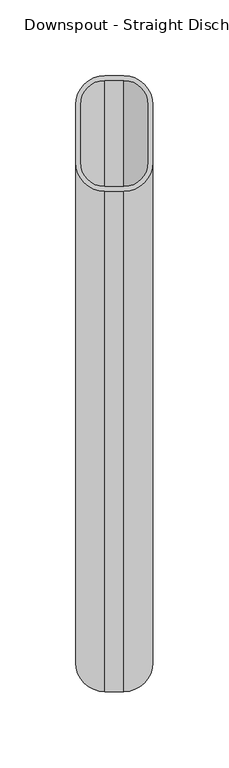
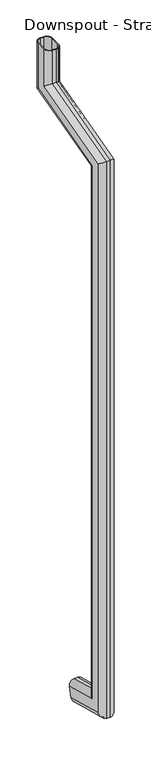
"""IFC4 building model written with IfcOpenShell, lengths in millimetres: proxy geometry."""

from ifc_helpers import new_model, si_unit, frame, origin, place, context, project, spatial, polyline, circle_curve, ellipse_curve, source, transform, mapped, element, save
from ifc_brep_helpers import plane_surface, cylinder_surface, revolved_surface, advanced_brep


def proxy_44de5c8c(model_context):
    return source(origin(), model_context, "Body", "AdvancedBrep", [
        advanced_brep(
        [(25.4, 350.6694972, 133.999113), (6.35, 345.7389944, 115.598226), (-6.35, 345.7389944, 115.598226), (-25.4, 350.6694972, 133.999113), (-25.4, 360.5305028, 170.800887), (-6.35, 365.4610056, 189.201774), (6.35, 365.4610056, 189.201774), (25.4, 360.5305028, 170.800887), (22.225, 350.6694972, 133.999113), (22.225, 360.5305028, 170.800887), (6.35, 364.6392552, 186.1349595), (-6.35, 364.6392552, 186.1349595), (-22.225, 360.5305028, 170.800887), (-22.225, 350.6694972, 133.999113), (-6.35, 346.5607448, 118.6650405), (6.35, 346.5607448, 118.6650405), (6.35, 165.1, 164.0002987), (25.4, 184.15, 178.6178778), (25.4, 184.15, 2212.1407558), (6.35, 165.1, 2226.7583349), (-6.35, 165.1, 164.0002987), (-6.35, 165.1, 2226.7583349), (-25.4, 184.15, 178.6178778), (-25.4, 184.15, 2212.1407558), (-6.35, 241.3, 222.4706152), (-25.4, 222.25, 207.853036), (-25.4, 222.25, 2182.9055975), (-6.35, 241.3, 2168.2880184), (6.35, 241.3, 222.4706152), (6.35, 241.3, 2168.2880184), (25.4, 222.25, 207.853036), (25.4, 222.25, 2182.9055975), (6.35, 238.125, 220.034352), (22.225, 222.25, 207.853036), (22.225, 222.25, 2182.9055975), (6.35, 238.125, 2170.7242816), (-6.35, 238.125, 220.034352), (-6.35, 238.125, 2170.7242816), (-22.225, 222.25, 207.853036), (-22.225, 222.25, 2182.9055975), (-6.35, 168.275, 166.4365619), (-22.225, 184.15, 178.6178778), (-22.225, 184.15, 2212.1407558), (-6.35, 168.275, 2224.3220717), (6.35, 168.275, 166.4365619), (6.35, 168.275, 2224.3220717), (22.225, 184.15, 178.6178778), (22.225, 184.15, 2212.1407558), (25.4, 514.35, 2300.6175791), (6.35, 495.3, 2315.2351582), (-6.35, 495.3, 2315.2351582), (-25.4, 514.35, 2300.6175791), (-25.4, 552.45, 2271.3824209), (-6.35, 571.5, 2256.7648418), (6.35, 571.5, 2256.7648418), (25.4, 552.45, 2271.3824209), (22.225, 552.45, 2271.3824209), (6.35, 568.325, 2259.2011049), (-6.35, 568.325, 2259.2011049), (-22.225, 552.45, 2271.3824209), (-22.225, 514.35, 2300.6175791), (-6.35, 498.475, 2312.7988951), (6.35, 498.475, 2312.7988951), (22.225, 514.35, 2300.6175791), (25.4, 514.35, 2438.4), (25.4, 552.45, 2438.4), (6.35, 571.5, 2438.4), (-6.35, 571.5, 2438.4), (-25.4, 552.45, 2438.4), (-25.4, 514.35, 2438.4), (-6.35, 495.3, 2438.4), (6.35, 495.3, 2438.4), (22.225, 514.35, 2438.4), (6.35, 498.475, 2438.4), (-6.35, 498.475, 2438.4), (-22.225, 514.35, 2438.4), (-22.225, 552.45, 2438.4), (-6.35, 568.325, 2438.4), (6.35, 568.325, 2438.4), (22.225, 552.45, 2438.4)],
        [
            (0, 1, circle_curve(frame((6.35, 350.6694972, 133.999113), z_axis=(0.0, 0.9659258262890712, -0.25881904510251), x_axis=(0.0, -0.25881904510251, -0.9659258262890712)), 19.05)),
            (1, 2),
            (2, 3, circle_curve(frame((-6.35, 350.6694972, 133.999113), z_axis=(0.0, 0.9659258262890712, -0.25881904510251), x_axis=(0.0, -0.25881904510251, -0.9659258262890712)), 19.05)),
            (3, 4),
            (4, 5, circle_curve(frame((-6.35, 360.5305028, 170.800887), z_axis=(0.0, 0.9659258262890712, -0.25881904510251), x_axis=(0.0, -0.25881904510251, -0.9659258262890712)), 19.05)),
            (5, 6),
            (6, 7, circle_curve(frame((6.35, 360.5305028, 170.800887), z_axis=(0.0, 0.9659258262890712, -0.25881904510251), x_axis=(0.0, -0.25881904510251, -0.9659258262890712)), 19.05)),
            (7, 0),
            (8, 9),
            (9, 10, circle_curve(frame((6.35, 360.5305028, 170.800887), z_axis=(0.0, -0.9659258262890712, 0.25881904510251), x_axis=(0.0, -0.25881904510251, -0.9659258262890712)), 15.875)),
            (10, 11),
            (11, 12, circle_curve(frame((-6.35, 360.5305028, 170.800887), z_axis=(0.0, -0.9659258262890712, 0.25881904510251), x_axis=(0.0, -0.25881904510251, -0.9659258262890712)), 15.875)),
            (12, 13),
            (13, 14, circle_curve(frame((-6.35, 350.6694972, 133.999113), z_axis=(0.0, -0.9659258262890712, 0.25881904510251), x_axis=(0.0, -0.25881904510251, -0.9659258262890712)), 15.875)),
            (14, 15),
            (15, 8, circle_curve(frame((6.35, 350.6694972, 133.999113), z_axis=(0.0, -0.9659258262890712, 0.25881904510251), x_axis=(0.0, -0.25881904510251, -0.9659258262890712)), 15.875)),
            (16, 17, ellipse_curve(frame((6.35, 184.15, 178.6178778), z_axis=(0.0, -0.608761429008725, 0.7933533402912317), x_axis=(0.0, -0.7933533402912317, -0.6087614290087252)), 24.0119995, 19.05)),
            (17, 18),
            (18, 19, ellipse_curve(frame((6.35, 184.15, 2212.1407558), z_axis=(0.0, -0.6087614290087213, -0.7933533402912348), x_axis=(0.0, 0.7933533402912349, -0.608761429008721)), 24.0119995, 19.05)),
            (19, 16),
            (20, 16),
            (19, 21),
            (21, 20),
            (22, 20, ellipse_curve(frame((-6.35, 184.15, 178.6178778), z_axis=(0.0, -0.608761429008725, 0.7933533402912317), x_axis=(0.0, -0.7933533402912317, -0.6087614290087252)), 24.0119995, 19.05)),
            (21, 23, ellipse_curve(frame((-6.35, 184.15, 2212.1407558), z_axis=(0.0, -0.6087614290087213, -0.7933533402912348), x_axis=(0.0, 0.7933533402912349, -0.608761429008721)), 24.0119995, 19.05)),
            (23, 22),
            (24, 25, ellipse_curve(frame((-6.35, 222.25, 207.853036), z_axis=(0.0, -0.608761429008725, 0.7933533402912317), x_axis=(0.0, -0.7933533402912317, -0.6087614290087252)), 24.0119995, 19.05)),
            (25, 26),
            (26, 27, ellipse_curve(frame((-6.35, 222.25, 2182.9055975), z_axis=(0.0, -0.6087614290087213, -0.7933533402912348), x_axis=(0.0, 0.7933533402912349, -0.608761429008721)), 24.0119995, 19.05)),
            (27, 24),
            (28, 24),
            (27, 29),
            (29, 28),
            (30, 28, ellipse_curve(frame((6.35, 222.25, 207.853036), z_axis=(0.0, -0.608761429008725, 0.7933533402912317), x_axis=(0.0, -0.7933533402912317, -0.6087614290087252)), 24.0119995, 19.05)),
            (29, 31, ellipse_curve(frame((6.35, 222.25, 2182.9055975), z_axis=(0.0, -0.6087614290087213, -0.7933533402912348), x_axis=(0.0, 0.7933533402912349, -0.608761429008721)), 24.0119995, 19.05)),
            (31, 30),
            (32, 33, ellipse_curve(frame((6.35, 222.25, 207.853036), z_axis=(0.0, 0.608761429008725, -0.7933533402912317), x_axis=(0.0, 0.7933533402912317, 0.6087614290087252)), 20.0099996, 15.875)),
            (33, 34),
            (34, 35, ellipse_curve(frame((6.35, 222.25, 2182.9055975), z_axis=(0.0, 0.6087614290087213, 0.7933533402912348), x_axis=(0.0, -0.7933533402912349, 0.608761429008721)), 20.0099996, 15.875)),
            (35, 32),
            (36, 32),
            (35, 37),
            (37, 36),
            (38, 36, ellipse_curve(frame((-6.35, 222.25, 207.853036), z_axis=(0.0, 0.608761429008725, -0.7933533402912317), x_axis=(0.0, 0.7933533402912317, 0.6087614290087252)), 20.0099996, 15.875)),
            (37, 39, ellipse_curve(frame((-6.35, 222.25, 2182.9055975), z_axis=(0.0, 0.6087614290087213, 0.7933533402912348), x_axis=(0.0, -0.7933533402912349, 0.608761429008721)), 20.0099996, 15.875)),
            (39, 38),
            (40, 41, ellipse_curve(frame((-6.35, 184.15, 178.6178778), z_axis=(0.0, 0.608761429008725, -0.7933533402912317), x_axis=(0.0, 0.7933533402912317, 0.6087614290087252)), 20.0099996, 15.875)),
            (41, 42),
            (42, 43, ellipse_curve(frame((-6.35, 184.15, 2212.1407558), z_axis=(0.0, 0.6087614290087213, 0.7933533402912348), x_axis=(0.0, -0.7933533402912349, 0.608761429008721)), 20.0099996, 15.875)),
            (43, 40),
            (44, 40),
            (43, 45),
            (45, 44),
            (46, 44, ellipse_curve(frame((6.35, 184.15, 178.6178778), z_axis=(0.0, 0.608761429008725, -0.7933533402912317), x_axis=(0.0, 0.7933533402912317, 0.6087614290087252)), 20.0099996, 15.875)),
            (45, 47, ellipse_curve(frame((6.35, 184.15, 2212.1407558), z_axis=(0.0, 0.6087614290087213, 0.7933533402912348), x_axis=(0.0, -0.7933533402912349, 0.608761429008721)), 20.0099996, 15.875)),
            (47, 46),
            (18, 48),
            (48, 49, ellipse_curve(frame((6.35, 514.35, 2300.6175791), z_axis=(0.0, -0.6087614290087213, -0.7933533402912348), x_axis=(0.0, -0.7933533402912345, 0.6087614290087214)), 24.0119995, 19.05)),
            (49, 19),
            (49, 50),
            (50, 21),
            (50, 51, ellipse_curve(frame((-6.35, 514.35, 2300.6175791), z_axis=(0.0, -0.6087614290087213, -0.7933533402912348), x_axis=(0.0, -0.7933533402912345, 0.6087614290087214)), 24.0119995, 19.05)),
            (51, 23),
            (26, 52),
            (52, 53, ellipse_curve(frame((-6.35, 552.45, 2271.3824209), z_axis=(0.0, -0.6087614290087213, -0.7933533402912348), x_axis=(0.0, -0.7933533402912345, 0.6087614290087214)), 24.0119995, 19.05)),
            (53, 27),
            (53, 54),
            (54, 29),
            (54, 55, ellipse_curve(frame((6.35, 552.45, 2271.3824209), z_axis=(0.0, -0.6087614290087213, -0.7933533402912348), x_axis=(0.0, -0.7933533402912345, 0.6087614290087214)), 24.0119995, 19.05)),
            (55, 31),
            (34, 56),
            (56, 57, ellipse_curve(frame((6.35, 552.45, 2271.3824209), z_axis=(0.0, 0.6087614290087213, 0.7933533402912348), x_axis=(0.0, 0.7933533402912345, -0.6087614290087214)), 20.0099996, 15.875)),
            (57, 35),
            (57, 58),
            (58, 37),
            (58, 59, ellipse_curve(frame((-6.35, 552.45, 2271.3824209), z_axis=(0.0, 0.6087614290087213, 0.7933533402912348), x_axis=(0.0, 0.7933533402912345, -0.6087614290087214)), 20.0099996, 15.875)),
            (59, 39),
            (42, 60),
            (60, 61, ellipse_curve(frame((-6.35, 514.35, 2300.6175791), z_axis=(0.0, 0.6087614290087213, 0.7933533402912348), x_axis=(0.0, 0.7933533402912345, -0.6087614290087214)), 20.0099996, 15.875)),
            (61, 43),
            (61, 62),
            (62, 45),
            (62, 63, ellipse_curve(frame((6.35, 514.35, 2300.6175791), z_axis=(0.0, 0.6087614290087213, 0.7933533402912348), x_axis=(0.0, 0.7933533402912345, -0.6087614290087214)), 20.0099996, 15.875)),
            (63, 47),
            (64, 65),
            (65, 66, circle_curve(frame((6.35, 552.45, 2438.4), z_axis=(0.0, 0.0, 1.0), x_axis=(0.0, -1.0, 0.0)), 19.05)),
            (66, 67),
            (67, 68, circle_curve(frame((-6.35, 552.45, 2438.4), z_axis=(0.0, 0.0, 1.0), x_axis=(0.0, -1.0, 0.0)), 19.05)),
            (68, 69),
            (69, 70, circle_curve(frame((-6.35, 514.35, 2438.4), z_axis=(0.0, 0.0, 1.0), x_axis=(0.0, -1.0, 0.0)), 19.05)),
            (70, 71),
            (71, 64, circle_curve(frame((6.35, 514.35, 2438.4), z_axis=(0.0, 0.0, 1.0), x_axis=(0.0, -1.0, 0.0)), 19.05)),
            (72, 73, circle_curve(frame((6.35, 514.35, 2438.4), z_axis=(0.0, 0.0, -1.0), x_axis=(0.0, -1.0, 0.0)), 15.875)),
            (73, 74),
            (74, 75, circle_curve(frame((-6.35, 514.35, 2438.4), z_axis=(0.0, 0.0, -1.0), x_axis=(0.0, -1.0, 0.0)), 15.875)),
            (75, 76),
            (76, 77, circle_curve(frame((-6.35, 552.45, 2438.4), z_axis=(0.0, 0.0, -1.0), x_axis=(0.0, -1.0, 0.0)), 15.875)),
            (77, 78),
            (78, 79, circle_curve(frame((6.35, 552.45, 2438.4), z_axis=(0.0, 0.0, -1.0), x_axis=(0.0, -1.0, 0.0)), 15.875)),
            (79, 72),
            (48, 64),
            (71, 49),
            (70, 50),
            (69, 51),
            (52, 68),
            (67, 53),
            (66, 54),
            (65, 55),
            (56, 79),
            (78, 57),
            (77, 58),
            (76, 59),
            (60, 75),
            (74, 61),
            (73, 62),
            (72, 63),
            (0, 17),
            (16, 1),
            (20, 2),
            (22, 3),
            (25, 4),
            (24, 5),
            (28, 6),
            (30, 7),
            (8, 46),
            (33, 9),
            (32, 10),
            (36, 11),
            (38, 12),
            (41, 13),
            (40, 14),
            (44, 15),
        ],
        [
            plane_surface(frame((0.0, 355.6, 152.4), z_axis=(0.0, 0.9659258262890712, -0.25881904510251), x_axis=(1.0, 0.0, 0.0))),
            cylinder_surface(frame((6.35, 184.15, 193.2354569), z_axis=(0.0, 0.0, -1.0), x_axis=(0.0, -1.0, 0.0)), 19.05),
            plane_surface(frame((6.35, 165.1, 164.0002987), z_axis=(0.0, -1.0, 0.0), x_axis=(0.0, 0.0, 1.0))),
            cylinder_surface(frame((-6.35, 184.15, 193.2354569), z_axis=(0.0, 0.0, -1.0), x_axis=(0.0, -1.0, 0.0)), 19.05),
            cylinder_surface(frame((-6.35, 222.25, 193.2354569), z_axis=(0.0, 0.0, -1.0), x_axis=(0.0, -1.0, 0.0)), 19.05),
            plane_surface(frame((-6.35, 241.3, 222.4706152), z_axis=(0.0, 1.0, 0.0), x_axis=(0.0, 0.0, 1.0))),
            cylinder_surface(frame((6.35, 222.25, 193.2354569), z_axis=(0.0, 0.0, -1.0), x_axis=(0.0, -1.0, 0.0)), 19.05),
            revolved_surface(polyline([(6.35, 206.375, 2195.0869134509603), (6.35, 206.375, 195.67172004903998)]), (6.35, 222.25, 193.2354569), (0.0, 0.0, 1.0)),
            plane_surface(frame((6.35, 238.125, 220.034352), z_axis=(0.0, -1.0, 0.0), x_axis=(0.0, 0.0, 1.0))),
            revolved_surface(polyline([(-6.35, 206.375, 2195.0869134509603), (-6.35, 206.375, 195.67172004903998)]), (-6.35, 222.25, 193.2354569), (0.0, 0.0, 1.0)),
            revolved_surface(polyline([(-6.35, 168.275, 2224.3220717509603), (-6.35, 168.275, 166.43656184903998)]), (-6.35, 184.15, 193.2354569), (0.0, 0.0, 1.0)),
            plane_surface(frame((-6.35, 168.275, 166.4365619), z_axis=(0.0, 1.0, 0.0), x_axis=(0.0, 0.0, 1.0))),
            revolved_surface(polyline([(6.35, 168.275, 2224.3220717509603), (6.35, 168.275, 166.43656184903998)]), (6.35, 184.15, 193.2354569), (0.0, 0.0, 1.0)),
            cylinder_surface(frame((6.35, 198.2694972, 2215.9240637), z_axis=(0.0, -0.9659258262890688, -0.2588190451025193), x_axis=(0.0, -0.2588190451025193, 0.9659258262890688)), 19.05),
            plane_surface(frame((6.35, 165.1, 2226.7583349), z_axis=(0.0, -0.2588190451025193, 0.9659258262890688), x_axis=(0.0, 0.9659258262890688, 0.2588190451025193))),
            cylinder_surface(frame((-6.35, 198.2694972, 2215.9240637), z_axis=(0.0, -0.9659258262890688, -0.2588190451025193), x_axis=(0.0, -0.2588190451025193, 0.9659258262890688)), 19.05),
            cylinder_surface(frame((-6.35, 208.1305028, 2179.1222897), z_axis=(0.0, -0.9659258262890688, -0.2588190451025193), x_axis=(0.0, -0.2588190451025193, 0.9659258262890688)), 19.05),
            plane_surface(frame((-6.35, 241.3, 2168.2880184), z_axis=(0.0, 0.25881904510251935, -0.9659258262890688), x_axis=(0.0, 0.9659258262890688, 0.25881904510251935))),
            cylinder_surface(frame((6.35, 208.1305028, 2179.1222897), z_axis=(0.0, -0.9659258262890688, -0.2588190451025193), x_axis=(0.0, -0.2588190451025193, 0.9659258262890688)), 19.05),
            revolved_surface(polyline([(6.35, 560.1074953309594, 2289.8692499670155), (6.35, 206.37499996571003, 2195.0869134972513)]), (6.35, 208.1305028, 2179.1222897), (0.0, 0.9659258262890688, 0.2588190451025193)),
            plane_surface(frame((6.35, 238.125, 2170.7242816), z_axis=(0.0, -0.25881904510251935, 0.9659258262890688), x_axis=(0.0, 0.9659258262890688, 0.25881904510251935))),
            revolved_surface(polyline([(-6.35, 560.1074953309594, 2289.8692499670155), (-6.35, 206.37499996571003, 2195.0869134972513)]), (-6.35, 208.1305028, 2179.1222897), (0.0, 0.9659258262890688, 0.2588190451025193)),
            revolved_surface(polyline([(-6.35, 522.0074953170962, 2319.1044082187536), (-6.35, 168.27499997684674, 2224.3220717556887)]), (-6.35, 198.2694972, 2215.9240637), (0.0, 0.9659258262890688, 0.2588190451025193)),
            plane_surface(frame((-6.35, 168.275, 2224.3220717), z_axis=(0.0, 0.2588190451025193, -0.9659258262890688), x_axis=(0.0, 0.9659258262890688, 0.2588190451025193))),
            revolved_surface(polyline([(6.35, 522.0074953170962, 2319.1044082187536), (6.35, 168.27499997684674, 2224.3220717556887)]), (6.35, 198.2694972, 2215.9240637), (0.0, 0.9659258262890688, 0.2588190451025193)),
            plane_surface(frame((0.0, 533.4, 2438.4), z_axis=(0.0, 0.0, 1.0), x_axis=(1.0, 0.0, 0.0))),
            cylinder_surface(frame((6.35, 514.35, 2286.0), z_axis=(0.0, 0.0, -1.0), x_axis=(0.0, -1.0, 0.0)), 19.05),
            plane_surface(frame((6.35, 495.3, 2315.2351582), z_axis=(0.0, -1.0, 0.0), x_axis=(0.0, 0.0, 1.0))),
            cylinder_surface(frame((-6.35, 514.35, 2286.0), z_axis=(0.0, 0.0, -1.0), x_axis=(0.0, -1.0, 0.0)), 19.05),
            cylinder_surface(frame((-6.35, 552.45, 2286.0), z_axis=(0.0, 0.0, -1.0), x_axis=(0.0, -1.0, 0.0)), 19.05),
            plane_surface(frame((-6.35, 571.5, 2256.7648418), z_axis=(0.0, 1.0, 0.0), x_axis=(0.0, 0.0, 1.0))),
            cylinder_surface(frame((6.35, 552.45, 2286.0), z_axis=(0.0, 0.0, -1.0), x_axis=(0.0, -1.0, 0.0)), 19.05),
            revolved_surface(polyline([(6.35, 536.575, 2438.4), (6.35, 536.575, 2259.2011049)]), (6.35, 552.45, 2286.0), (0.0, 0.0, 1.0)),
            plane_surface(frame((6.35, 568.325, 2259.2011049), z_axis=(0.0, -1.0, 0.0), x_axis=(0.0, 0.0, 1.0))),
            revolved_surface(polyline([(-6.35, 536.575, 2438.4), (-6.35, 536.575, 2259.2011049)]), (-6.35, 552.45, 2286.0), (0.0, 0.0, 1.0)),
            revolved_surface(polyline([(-6.35, 498.475, 2438.4), (-6.35, 498.475, 2288.4362631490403)]), (-6.35, 514.35, 2286.0), (0.0, 0.0, 1.0)),
            plane_surface(frame((-6.35, 498.475, 2312.7988951), z_axis=(0.0, 1.0, 0.0), x_axis=(0.0, 0.0, 1.0))),
            revolved_surface(polyline([(6.35, 498.475, 2438.4), (6.35, 498.475, 2288.4362631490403)]), (6.35, 514.35, 2286.0), (0.0, 0.0, 1.0)),
            cylinder_surface(frame((6.35, 350.6694972, 133.999113), z_axis=(0.0, 0.9659258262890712, -0.25881904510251), x_axis=(0.0, -0.25881904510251, -0.9659258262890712)), 19.05),
            plane_surface(frame((6.35, 345.7389944, 115.598226), z_axis=(0.0, -0.25881904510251, -0.9659258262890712), x_axis=(0.0, -0.9659258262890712, 0.25881904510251))),
            cylinder_surface(frame((-6.35, 350.6694972, 133.999113), z_axis=(0.0, 0.9659258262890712, -0.25881904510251), x_axis=(0.0, -0.25881904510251, -0.9659258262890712)), 19.05),
            plane_surface(frame((-25.4, 350.6694972, 133.999113), z_axis=(-1.0, 0.0, 0.0), x_axis=(0.0, -0.9659258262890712, 0.25881904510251))),
            cylinder_surface(frame((-6.35, 360.5305028, 170.800887), z_axis=(0.0, 0.9659258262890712, -0.25881904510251), x_axis=(0.0, -0.25881904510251, -0.9659258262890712)), 19.05),
            plane_surface(frame((-6.35, 365.4610056, 189.201774), z_axis=(0.0, 0.2588190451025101, 0.9659258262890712), x_axis=(0.0, -0.9659258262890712, 0.2588190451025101))),
            cylinder_surface(frame((6.35, 360.5305028, 170.800887), z_axis=(0.0, 0.9659258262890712, -0.25881904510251), x_axis=(0.0, -0.25881904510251, -0.9659258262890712)), 19.05),
            plane_surface(frame((25.4, 360.5305028, 170.800887), z_axis=(1.0000000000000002, 0.0, 0.0), x_axis=(0.0, -0.9659258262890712, 0.2588190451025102))),
            plane_surface(frame((22.225, 350.6694972, 133.999113), z_axis=(-1.0, 0.0, 0.0), x_axis=(0.0, -0.9659258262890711, 0.2588190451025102))),
            revolved_surface(polyline([(6.35, 206.37499999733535, 195.6717201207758), (6.35, 356.42175051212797, 155.46681449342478)]), (6.35, 360.5305028, 170.800887), (0.0, -0.9659258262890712, 0.25881904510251)),
            plane_surface(frame((6.35, 364.6392552, 186.1349595), z_axis=(0.0, -0.2588190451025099, -0.9659258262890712), x_axis=(0.0, -0.9659258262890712, 0.2588190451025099))),
            revolved_surface(polyline([(-6.35, 206.37499999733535, 195.6717201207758), (-6.35, 356.42175051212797, 155.46681449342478)]), (-6.35, 360.5305028, 170.800887), (0.0, -0.9659258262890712, 0.25881904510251)),
            plane_surface(frame((-22.225, 360.5305028, 170.800887), z_axis=(1.0, 0.0, 0.0), x_axis=(0.0, -0.9659258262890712, 0.2588190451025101))),
            revolved_surface(polyline([(-6.35, 168.274999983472, 166.43656186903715), (-6.35, 346.5607448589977, 118.66504050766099)]), (-6.35, 350.6694972, 133.999113), (0.0, -0.9659258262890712, 0.25881904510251)),
            plane_surface(frame((-6.35, 346.5607448, 118.6650405), z_axis=(0.0, 0.25881904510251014, 0.9659258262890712), x_axis=(0.0, -0.9659258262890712, 0.25881904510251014))),
            revolved_surface(polyline([(6.35, 168.274999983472, 166.43656186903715), (6.35, 346.5607448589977, 118.66504050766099)]), (6.35, 350.6694972, 133.999113), (0.0, -0.9659258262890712, 0.25881904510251)),
        ],
        [
            (0, [[1, 2, 3, 4, 5, 6, 7, 8], [9, 10, 11, 12, 13, 14, 15, 16]]),
            (1, [[17, 18, 19, 20]]),
            (2, [[21, -20, 22, 23]]),
            (3, [[24, -23, 25, 26]]),
            (4, [[27, 28, 29, 30]]),
            (5, [[31, -30, 32, 33]]),
            (6, [[34, -33, 35, 36]]),
            (7, [[37, 38, 39, 40]]),
            (8, [[41, -40, 42, 43]]),
            (9, [[44, -43, 45, 46]]),
            (10, [[47, 48, 49, 50]]),
            (11, [[51, -50, 52, 53]]),
            (12, [[54, -53, 55, 56]]),
            (13, [[-19, 57, 58, 59]]),
            (14, [[-22, -59, 60, 61]]),
            (15, [[-25, -61, 62, 63]]),
            (16, [[-29, 64, 65, 66]]),
            (17, [[-32, -66, 67, 68]]),
            (18, [[-35, -68, 69, 70]]),
            (19, [[-39, 71, 72, 73]]),
            (20, [[-42, -73, 74, 75]]),
            (21, [[-45, -75, 76, 77]]),
            (22, [[-49, 78, 79, 80]]),
            (23, [[-52, -80, 81, 82]]),
            (24, [[-55, -82, 83, 84]]),
            (25, [[85, 86, 87, 88, 89, 90, 91, 92], [93, 94, 95, 96, 97, 98, 99, 100]]),
            (26, [[-58, 101, -92, 102]]),
            (27, [[-60, -102, -91, 103]]),
            (28, [[-62, -103, -90, 104]]),
            (29, [[-65, 105, -88, 106]]),
            (30, [[-67, -106, -87, 107]]),
            (31, [[-69, -107, -86, 108]]),
            (32, [[-72, 109, -99, 110]]),
            (33, [[-74, -110, -98, 111]]),
            (34, [[-76, -111, -97, 112]]),
            (35, [[-79, 113, -95, 114]]),
            (36, [[-81, -114, -94, 115]]),
            (37, [[-83, -115, -93, 116]]),
            (38, [[-1, 117, -17, 118]]),
            (39, [[-2, -118, -21, 119]]),
            (40, [[-3, -119, -24, 120]]),
            (41, [[-4, -120, -26, -63, -104, -89, -105, -64, -28, 121]]),
            (42, [[-5, -121, -27, 122]]),
            (43, [[-6, -122, -31, 123]]),
            (44, [[-7, -123, -34, 124]]),
            (45, [[-8, -124, -36, -70, -108, -85, -101, -57, -18, -117]]),
            (46, [[-9, 125, -56, -84, -116, -100, -109, -71, -38, 126]]),
            (47, [[-10, -126, -37, 127]]),
            (48, [[-11, -127, -41, 128]]),
            (49, [[-12, -128, -44, 129]]),
            (50, [[-13, -129, -46, -77, -112, -96, -113, -78, -48, 130]]),
            (51, [[-14, -130, -47, 131]]),
            (52, [[-15, -131, -51, 132]]),
            (53, [[-16, -132, -54, -125]]),
        ],
    ),
    ])


if __name__ == "__main__":
    model = new_model("IFC4")
    model_context = context("Model", 3, world=origin())
    ifc_project = project(units=[si_unit("LENGTHUNIT", "METRE", prefix="MILLI")], contexts=[model_context])
    site = spatial("IfcSite", under=ifc_project)
    building = spatial("IfcBuilding", under=site)
    placement = place(None, origin())
    proxy_shape = proxy_44de5c8c(model_context)
    element("IfcBuildingElementProxy", 1, Name="Downspout - Straight Discharge : 3\" x 2\" B", ObjectType="Downspout - Straight Discharge : 3\" x 2\" B", at=placement, inside=building, context=model_context, shape_type="MappedRepresentation", body=[
        mapped(proxy_shape, transform((0.0, 0.0, 0.0), x_axis=(1.0, 0.0, 0.0), y_axis=(0.0, 1.0, 0.0), z_axis=(0.0, 0.0, 1.0))),
    ])
    save(model, "model.ifc")
